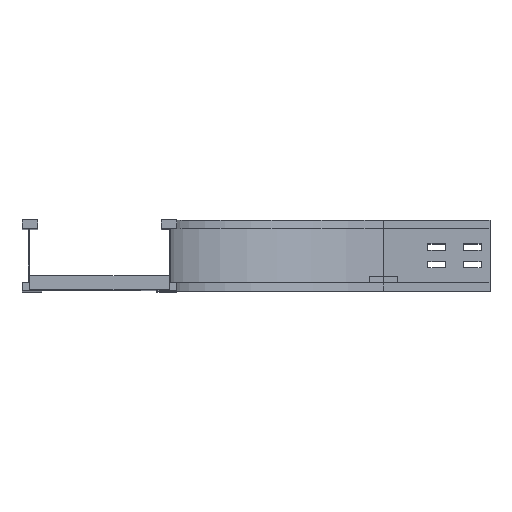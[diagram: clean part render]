
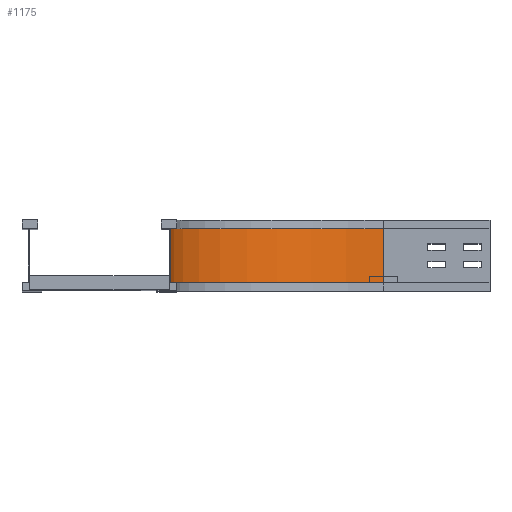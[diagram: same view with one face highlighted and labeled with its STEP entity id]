
A CAD part, top view. The second image highlights one B-rep face of the part: STEP entity #1175.
In plain terms, the highlighted cylindrical face has radius 300 mm (diameter 600 mm), a partial arc.
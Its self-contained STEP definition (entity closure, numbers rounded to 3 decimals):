
#7 = DIRECTION ( 'NONE',  ( 0., 1., 0. ) ) ;
#148 = CARTESIAN_POINT ( 'NONE',  ( 291., 12., -450. ) ) ;
#293 = CIRCLE ( 'NONE', #3297, 300. ) ;
#309 = EDGE_LOOP ( 'NONE', ( #2553, #915, #1014, #896 ) ) ;
#341 = CARTESIAN_POINT ( 'NONE',  ( -9., 12., -150. ) ) ;
#392 = DIRECTION ( 'NONE',  ( 0., -1., 0. ) ) ;
#771 = DIRECTION ( 'NONE',  ( 0., -1., 0. ) ) ;
#865 = DIRECTION ( 'NONE',  ( 0., 1., 0. ) ) ;
#896 = ORIENTED_EDGE ( 'NONE', *, *, #1949, .T. ) ;
#915 = ORIENTED_EDGE ( 'NONE', *, *, #4010, .F. ) ;
#1014 = ORIENTED_EDGE ( 'NONE', *, *, #1315, .T. ) ;
#1175 = ADVANCED_FACE ( 'NONE', ( #2998 ), #2667, .F. ) ;
#1176 = CARTESIAN_POINT ( 'NONE',  ( -9., 88., -150. ) ) ;
#1254 = CIRCLE ( 'NONE', #2933, 300. ) ;
#1315 = EDGE_CURVE ( 'NONE', #2611, #3077, #1254, .T. ) ;
#1417 = VERTEX_POINT ( 'NONE', #1176 ) ;
#1543 = VECTOR ( 'NONE', #865, 1000. ) ;
#1742 = DIRECTION ( 'NONE',  ( 0., -1., 0. ) ) ;
#1949 = EDGE_CURVE ( 'NONE', #3077, #3987, #3485, .T. ) ;
#2053 = CARTESIAN_POINT ( 'NONE',  ( 291., 12., -150. ) ) ;
#2238 = CARTESIAN_POINT ( 'NONE',  ( 291., 12., -450. ) ) ;
#2393 = CARTESIAN_POINT ( 'NONE',  ( 291., 88., -150. ) ) ;
#2435 = VECTOR ( 'NONE', #7, 1000. ) ;
#2553 = ORIENTED_EDGE ( 'NONE', *, *, #3317, .F. ) ;
#2591 = CARTESIAN_POINT ( 'NONE',  ( 291., 88., -450. ) ) ;
#2611 = VERTEX_POINT ( 'NONE', #341 ) ;
#2667 = CYLINDRICAL_SURFACE ( 'NONE', #3347, 300. ) ;
#2933 = AXIS2_PLACEMENT_3D ( 'NONE', #2053, #392, #3066 ) ;
#2998 = FACE_OUTER_BOUND ( 'NONE', #309, .T. ) ;
#3066 = DIRECTION ( 'NONE',  ( -1., 0., 0. ) ) ;
#3077 = VERTEX_POINT ( 'NONE', #2238 ) ;
#3288 = CARTESIAN_POINT ( 'NONE',  ( -9., 12., -150. ) ) ;
#3297 = AXIS2_PLACEMENT_3D ( 'NONE', #2393, #1742, #3718 ) ;
#3317 = EDGE_CURVE ( 'NONE', #1417, #3987, #293, .T. ) ;
#3347 = AXIS2_PLACEMENT_3D ( 'NONE', #3672, #771, #3389 ) ;
#3389 = DIRECTION ( 'NONE',  ( 0., 0., -1. ) ) ;
#3485 = LINE ( 'NONE', #148, #1543 ) ;
#3672 = CARTESIAN_POINT ( 'NONE',  ( 291., 0., -150. ) ) ;
#3718 = DIRECTION ( 'NONE',  ( -1., 0., 0. ) ) ;
#3987 = VERTEX_POINT ( 'NONE', #2591 ) ;
#4010 = EDGE_CURVE ( 'NONE', #2611, #1417, #4270, .T. ) ;
#4270 = LINE ( 'NONE', #3288, #2435 ) ;
